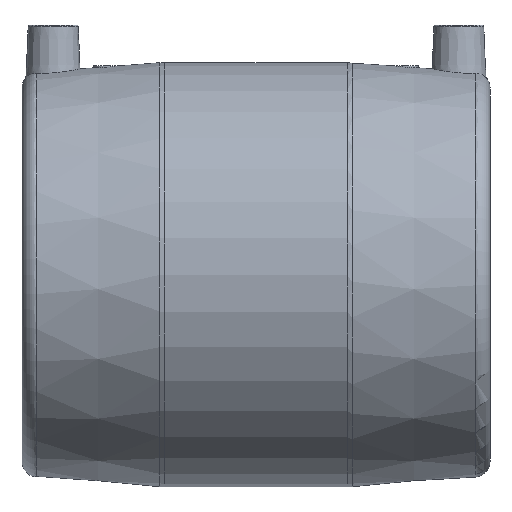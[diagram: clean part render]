
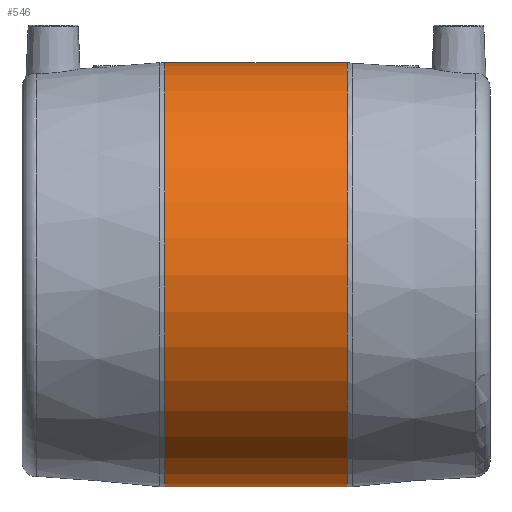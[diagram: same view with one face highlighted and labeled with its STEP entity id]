
A CAD part, front view. The second image highlights one B-rep face of the part: STEP entity #546.
In plain terms, the highlighted cylindrical face has radius 68 mm (diameter 136 mm), a full revolution.
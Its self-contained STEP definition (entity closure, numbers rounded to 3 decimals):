
#88=CYLINDRICAL_SURFACE('',#607,68.);
#112=CIRCLE('',#608,68.);
#113=CIRCLE('',#609,68.);
#156=ORIENTED_EDGE('',*,*,#286,.T.);
#157=ORIENTED_EDGE('',*,*,#287,.T.);
#286=EDGE_CURVE('',#350,#350,#112,.F.);
#287=EDGE_CURVE('',#351,#351,#113,.T.);
#350=VERTEX_POINT('',#942);
#351=VERTEX_POINT('',#944);
#408=EDGE_LOOP('',(#156));
#409=EDGE_LOOP('',(#157));
#478=FACE_BOUND('',#408,.T.);
#479=FACE_BOUND('',#409,.T.);
#546=ADVANCED_FACE('',(#478,#479),#88,.T.);
#607=AXIS2_PLACEMENT_3D('',#940,#697,#698);
#608=AXIS2_PLACEMENT_3D('',#941,#699,#700);
#609=AXIS2_PLACEMENT_3D('',#943,#701,#702);
#697=DIRECTION('',(-1.,0.,0.));
#698=DIRECTION('',(0.,0.,1.));
#699=DIRECTION('',(1.,0.,0.));
#700=DIRECTION('',(0.,0.,-1.));
#701=DIRECTION('',(1.,0.,0.));
#702=DIRECTION('',(0.,0.,-1.));
#940=CARTESIAN_POINT('',(-60.,0.,0.));
#941=CARTESIAN_POINT('',(29.223,0.,0.));
#942=CARTESIAN_POINT('',(29.223,0.,-68.));
#943=CARTESIAN_POINT('',(-29.223,0.,0.));
#944=CARTESIAN_POINT('',(-29.223,0.,-68.));
